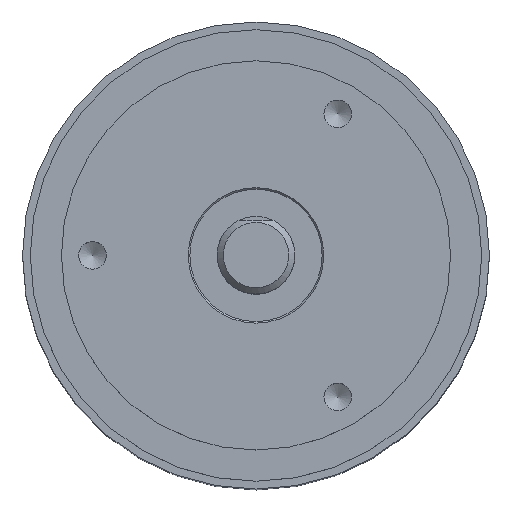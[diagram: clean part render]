
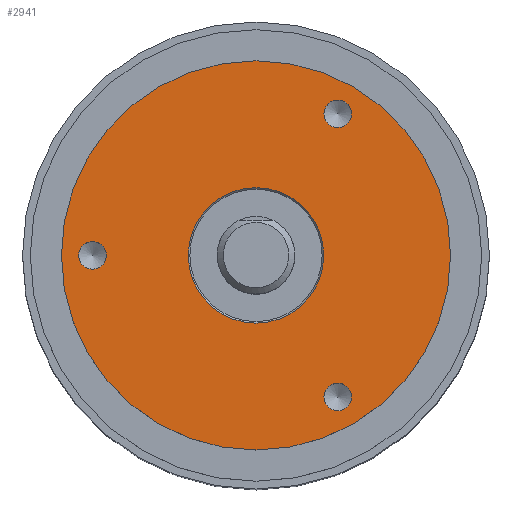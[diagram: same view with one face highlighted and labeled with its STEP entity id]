
A CAD part, top view. The second image highlights one B-rep face of the part: STEP entity #2941.
In plain terms, the highlighted planar face has unit normal (0, 0, 1).
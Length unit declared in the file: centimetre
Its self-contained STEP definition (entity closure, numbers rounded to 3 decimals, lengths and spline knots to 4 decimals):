
#467=PLANE('',#3238);
#584=VERTEX_POINT('',#3752);
#587=VERTEX_POINT('',#3759);
#590=VERTEX_POINT('',#3766);
#596=VERTEX_POINT('',#3783);
#597=VERTEX_POINT('',#3786);
#865=CIRCLE('',#3218,0.1773);
#867=CIRCLE('',#3222,0.1773);
#869=CIRCLE('',#3226,0.1773);
#875=CIRCLE('',#3237,2.5);
#876=CIRCLE('',#3239,0.87);
#1099=EDGE_CURVE('',#584,#584,#865,.T.);
#1101=EDGE_CURVE('',#587,#587,#867,.T.);
#1103=EDGE_CURVE('',#590,#590,#869,.T.);
#1109=EDGE_CURVE('',#596,#596,#875,.T.);
#1110=EDGE_CURVE('',#597,#597,#876,.T.);
#1478=ORIENTED_EDGE('',*,*,#1099,.T.);
#1479=ORIENTED_EDGE('',*,*,#1101,.T.);
#1480=ORIENTED_EDGE('',*,*,#1103,.T.);
#1481=ORIENTED_EDGE('',*,*,#1110,.F.);
#1482=ORIENTED_EDGE('',*,*,#1109,.T.);
#2154=EDGE_LOOP('',(#1478));
#2155=EDGE_LOOP('',(#1479));
#2156=EDGE_LOOP('',(#1480));
#2157=EDGE_LOOP('',(#1481));
#2158=EDGE_LOOP('',(#1482));
#2560=FACE_BOUND('',#2154,.T.);
#2561=FACE_BOUND('',#2155,.T.);
#2562=FACE_BOUND('',#2156,.T.);
#2563=FACE_BOUND('',#2157,.T.);
#2564=FACE_BOUND('',#2158,.T.);
#2941=ADVANCED_FACE('',(#2560,#2561,#2562,#2563,#2564),#467,.T.);
#3218=AXIS2_PLACEMENT_3D('',#3751,#4759,#4760);
#3222=AXIS2_PLACEMENT_3D('',#3758,#4767,#4768);
#3226=AXIS2_PLACEMENT_3D('',#3765,#4775,#4776);
#3237=AXIS2_PLACEMENT_3D('',#3782,#4795,#4796);
#3238=AXIS2_PLACEMENT_3D('',#3784,#4797,$);
#3239=AXIS2_PLACEMENT_3D('',#3785,#4798,#4799);
#3751=CARTESIAN_POINT('',(1.05,1.8187,1.4));
#3752=CARTESIAN_POINT('',(1.05,1.9959,1.4));
#3758=CARTESIAN_POINT('',(1.05,-1.8187,1.4));
#3759=CARTESIAN_POINT('',(1.05,-1.6414,1.4));
#3765=CARTESIAN_POINT('',(-2.1,0.,1.4));
#3766=CARTESIAN_POINT('',(-2.1,0.1773,1.4));
#3782=CARTESIAN_POINT('',(0.,0.,1.4));
#3783=CARTESIAN_POINT('',(0.,2.5,1.4));
#3784=CARTESIAN_POINT('',(0.,1.685,1.4));
#3785=CARTESIAN_POINT('',(0.,0.,1.4));
#3786=CARTESIAN_POINT('',(0.,0.87,1.4));
#4759=DIRECTION('',(0.,0.,-1.));
#4760=DIRECTION('',(0.,0.177,0.));
#4767=DIRECTION('',(0.,0.,-1.));
#4768=DIRECTION('',(0.,0.177,0.));
#4775=DIRECTION('',(0.,0.,-1.));
#4776=DIRECTION('',(0.,0.177,0.));
#4795=DIRECTION('',(0.,0.,1.));
#4796=DIRECTION('',(0.,2.5,0.));
#4797=DIRECTION('',(0.,0.,1.));
#4798=DIRECTION('',(0.,0.,1.));
#4799=DIRECTION('',(0.,0.87,0.));
